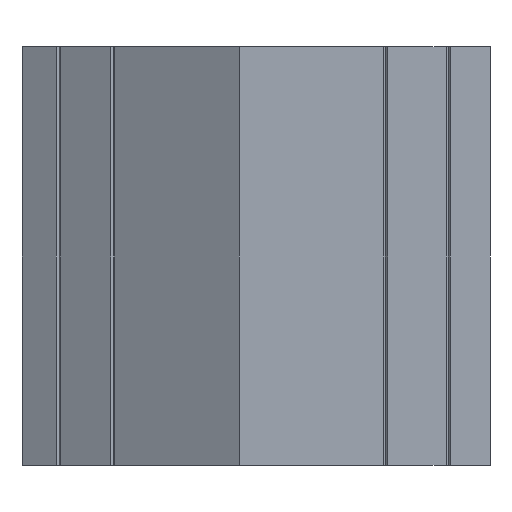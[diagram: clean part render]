
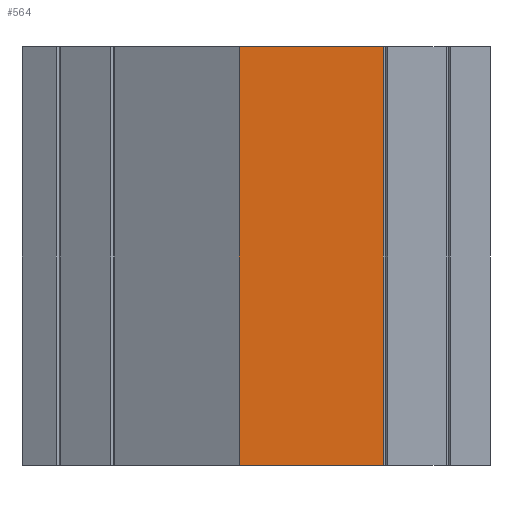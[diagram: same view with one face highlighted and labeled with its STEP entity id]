
A CAD part, front view. The second image highlights one B-rep face of the part: STEP entity #564.
In plain terms, the highlighted planar face has unit normal (0, -1, 0).
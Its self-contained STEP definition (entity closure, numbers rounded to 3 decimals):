
#12 = DIRECTION ( 'NONE',  ( 0., 0., -1. ) ) ;
#43 = DIRECTION ( 'NONE',  ( 0., 0., -1. ) ) ;
#51 = FACE_OUTER_BOUND ( 'NONE', #514, .T. ) ;
#53 = VERTEX_POINT ( 'NONE', #629 ) ;
#54 = LINE ( 'NONE', #424, #576 ) ;
#156 = CARTESIAN_POINT ( 'NONE',  ( 34.5, 0., 50. ) ) ;
#193 = VERTEX_POINT ( 'NONE', #958 ) ;
#197 = EDGE_CURVE ( 'NONE', #193, #1059, #473, .T. ) ;
#203 = CARTESIAN_POINT ( 'NONE',  ( 0., 0., -50. ) ) ;
#264 = LINE ( 'NONE', #639, #819 ) ;
#285 = AXIS2_PLACEMENT_3D ( 'NONE', #791, #507, #43 ) ;
#304 = ORIENTED_EDGE ( 'NONE', *, *, #197, .T. ) ;
#308 = PLANE ( 'NONE',  #285 ) ;
#330 = DIRECTION ( 'NONE',  ( 1., 0., 0. ) ) ;
#399 = VECTOR ( 'NONE', #1154, 1000. ) ;
#424 = CARTESIAN_POINT ( 'NONE',  ( 2.73, 0., -50. ) ) ;
#473 = LINE ( 'NONE', #1035, #608 ) ;
#507 = DIRECTION ( 'NONE',  ( 0., -1., 0. ) ) ;
#514 = EDGE_LOOP ( 'NONE', ( #304, #774, #846, #810 ) ) ;
#564 = ADVANCED_FACE ( 'NONE', ( #51 ), #308, .T. ) ;
#576 = VECTOR ( 'NONE', #330, 1000. ) ;
#608 = VECTOR ( 'NONE', #12, 1000. ) ;
#629 = CARTESIAN_POINT ( 'NONE',  ( 34.5, 0., -50. ) ) ;
#639 = CARTESIAN_POINT ( 'NONE',  ( 34.5, 0., 0. ) ) ;
#665 = CARTESIAN_POINT ( 'NONE',  ( 2.73, 0., 50. ) ) ;
#688 = EDGE_CURVE ( 'NONE', #193, #736, #1141, .T. ) ;
#736 = VERTEX_POINT ( 'NONE', #156 ) ;
#774 = ORIENTED_EDGE ( 'NONE', *, *, #820, .T. ) ;
#791 = CARTESIAN_POINT ( 'NONE',  ( 60., 0., 0. ) ) ;
#810 = ORIENTED_EDGE ( 'NONE', *, *, #688, .F. ) ;
#819 = VECTOR ( 'NONE', #1036, 1000. ) ;
#820 = EDGE_CURVE ( 'NONE', #1059, #53, #54, .T. ) ;
#846 = ORIENTED_EDGE ( 'NONE', *, *, #982, .T. ) ;
#958 = CARTESIAN_POINT ( 'NONE',  ( 0., 0., 50. ) ) ;
#982 = EDGE_CURVE ( 'NONE', #53, #736, #264, .T. ) ;
#1035 = CARTESIAN_POINT ( 'NONE',  ( 0., 0., 0. ) ) ;
#1036 = DIRECTION ( 'NONE',  ( 0., 0., 1. ) ) ;
#1059 = VERTEX_POINT ( 'NONE', #203 ) ;
#1141 = LINE ( 'NONE', #665, #399 ) ;
#1154 = DIRECTION ( 'NONE',  ( 1., 0., 0. ) ) ;
